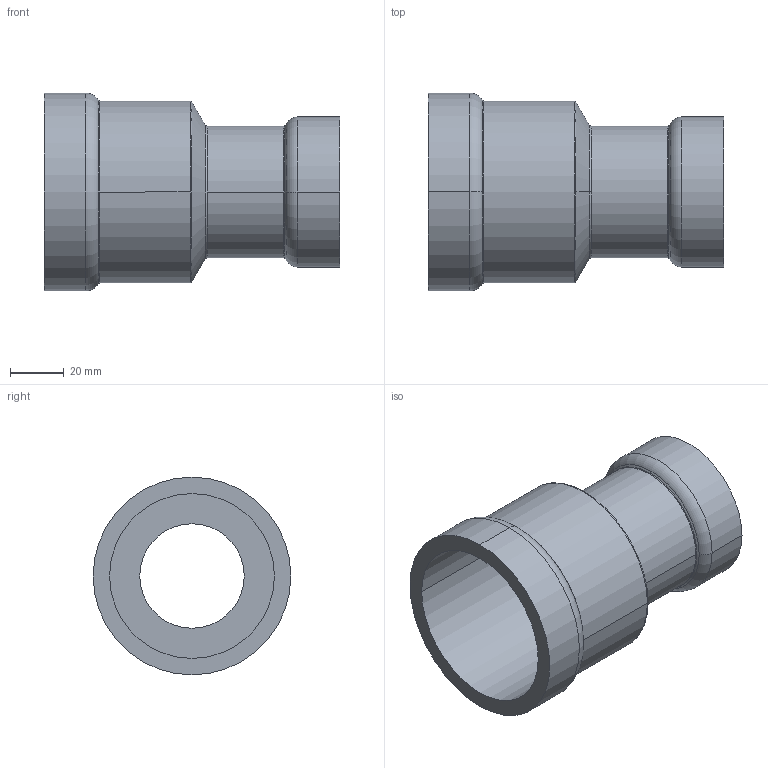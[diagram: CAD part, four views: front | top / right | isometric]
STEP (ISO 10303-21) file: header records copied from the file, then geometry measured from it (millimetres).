
FILE_DESCRIPTION(('Creo Elements/Direct Modeling STEP Export'),'2;1');
FILE_NAME('C9439_2_1-1-4.stp','2020-07-20T10:20:31',(''),(''),'PTC Creo Elements/Direct Modeling STEP processor for AP214 (Solid Model)','PTC Creo Elements/Direct Modeling 19.0C 15-Aug-2015 (C) Parametric Technology GmbH','');
FILE_SCHEMA(('AUTOMOTIVE_DESIGN { 1 0 10303 214 1 1 1 1 }'));
Length unit declared in the file: millimetre
Products named in the file (2): C9439_2_1-1-4
Assembly tree (1 placements, depth 2):
  C9439_2_1-1-4
    C9439_2_1-1-4
Bounding box: 110.32 x 73.8 x 73.8 mm (x, y, z)
Volume: 90270.8 mm3; surface area: 44968.5 mm2
Topology: 1 solids, 1 shells, 34 faces, 79 edges, 49 vertices
Faces by surface type: cylinder 14, torus 12, plane 4, cone 4
Entity records: 895 total; most frequent: ORIENTED_EDGE 158, DIRECTION 152, CARTESIAN_POINT 134, EDGE_CURVE 79, AXIS2_PLACEMENT_3D 67, VERTEX_POINT 49, EDGE_LOOP 38, FACE_OUTER_BOUND 34
